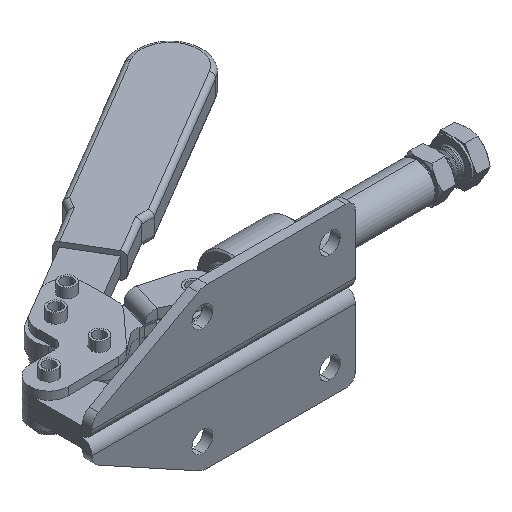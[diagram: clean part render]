
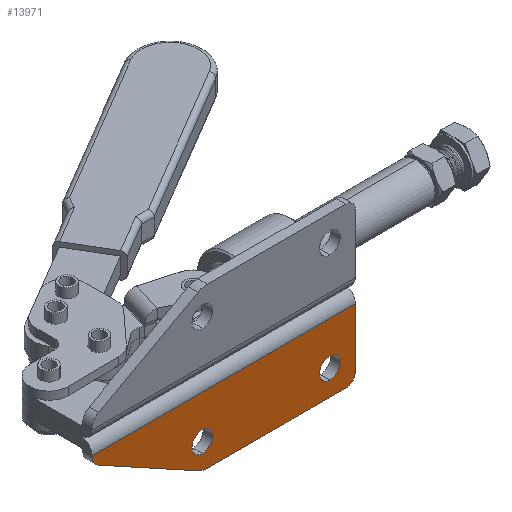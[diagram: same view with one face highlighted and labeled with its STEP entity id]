
A CAD part, isometric view. The second image highlights one B-rep face of the part: STEP entity #13971.
In plain terms, the highlighted planar face has unit normal (0, -1, 0).
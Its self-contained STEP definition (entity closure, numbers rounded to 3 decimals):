
#311 = VECTOR ( 'NONE', #9403, 1000. ) ;
#315 = EDGE_CURVE ( 'NONE', #5913, #9939, #6639, .T. ) ;
#411 = DIRECTION ( 'NONE',  ( 0., 0., -1. ) ) ;
#559 = DIRECTION ( 'NONE',  ( 0., 1., 0. ) ) ;
#711 = DIRECTION ( 'NONE',  ( 0., -1., 0. ) ) ;
#750 = DIRECTION ( 'NONE',  ( 1., 0., 0. ) ) ;
#974 = CARTESIAN_POINT ( 'NONE',  ( 0., 0., -3.5 ) ) ;
#1573 = CIRCLE ( 'NONE', #2748, 3.25 ) ;
#1803 = CIRCLE ( 'NONE', #2439, 3.25 ) ;
#1826 = DIRECTION ( 'NONE',  ( 0., 1., 0. ) ) ;
#1888 = ORIENTED_EDGE ( 'NONE', *, *, #8799, .F. ) ;
#2153 = VECTOR ( 'NONE', #2907, 1000. ) ;
#2169 = CIRCLE ( 'NONE', #7240, 3. ) ;
#2236 = AXIS2_PLACEMENT_3D ( 'NONE', #12518, #5888, #13631 ) ;
#2375 = CARTESIAN_POINT ( 'NONE',  ( -48., 0., -13.75 ) ) ;
#2439 = AXIS2_PLACEMENT_3D ( 'NONE', #10698, #4049, #11818 ) ;
#2579 = ORIENTED_EDGE ( 'NONE', *, *, #12409, .T. ) ;
#2700 = AXIS2_PLACEMENT_3D ( 'NONE', #7338, #711, #8438 ) ;
#2721 = DIRECTION ( 'NONE',  ( 0., -1., 0. ) ) ;
#2748 = AXIS2_PLACEMENT_3D ( 'NONE', #7168, #559, #8294 ) ;
#2907 = DIRECTION ( 'NONE',  ( 0.877, 0., -0.481 ) ) ;
#3090 = FACE_BOUND ( 'NONE', #6454, .T. ) ;
#3225 = VERTEX_POINT ( 'NONE', #2375 ) ;
#3278 = CARTESIAN_POINT ( 'NONE',  ( -82.6, 0., 0. ) ) ;
#3337 = ORIENTED_EDGE ( 'NONE', *, *, #315, .T. ) ;
#3412 = LINE ( 'NONE', #5231, #11937 ) ;
#3661 = AXIS2_PLACEMENT_3D ( 'NONE', #3278, #6638, #411 ) ;
#3961 = VERTEX_POINT ( 'NONE', #6058 ) ;
#3989 = VERTEX_POINT ( 'NONE', #11677 ) ;
#4049 = DIRECTION ( 'NONE',  ( 0., 1., 0. ) ) ;
#4322 = CARTESIAN_POINT ( 'NONE',  ( -8., 0., -20.25 ) ) ;
#4455 = DIRECTION ( 'NONE',  ( 0., -1., 0. ) ) ;
#4538 = CARTESIAN_POINT ( 'NONE',  ( -82.6, 0., 0. ) ) ;
#4602 = ORIENTED_EDGE ( 'NONE', *, *, #13473, .T. ) ;
#5174 = VERTEX_POINT ( 'NONE', #7810 ) ;
#5231 = CARTESIAN_POINT ( 'NONE',  ( -82.6, 0., -25. ) ) ;
#5426 = LINE ( 'NONE', #8417, #2153 ) ;
#5760 = EDGE_LOOP ( 'NONE', ( #8769, #9363 ) ) ;
#5888 = DIRECTION ( 'NONE',  ( 0., 1., 0. ) ) ;
#5913 = VERTEX_POINT ( 'NONE', #8809 ) ;
#5929 = CARTESIAN_POINT ( 'NONE',  ( -46.461, 0., -25. ) ) ;
#6044 = FACE_OUTER_BOUND ( 'NONE', #12788, .T. ) ;
#6058 = CARTESIAN_POINT ( 'NONE',  ( -49.349, 0., -24.259 ) ) ;
#6454 = EDGE_LOOP ( 'NONE', ( #4602, #2579 ) ) ;
#6603 = ORIENTED_EDGE ( 'NONE', *, *, #14054, .T. ) ;
#6638 = DIRECTION ( 'NONE',  ( 0., -1., 0. ) ) ;
#6639 = CIRCLE ( 'NONE', #10902, 4. ) ;
#6733 = VERTEX_POINT ( 'NONE', #10495 ) ;
#6867 = CARTESIAN_POINT ( 'NONE',  ( -3., 0., -25. ) ) ;
#6948 = VERTEX_POINT ( 'NONE', #974 ) ;
#7168 = CARTESIAN_POINT ( 'NONE',  ( -8., 0., -17. ) ) ;
#7190 = AXIS2_PLACEMENT_3D ( 'NONE', #8431, #1826, #9532 ) ;
#7240 = AXIS2_PLACEMENT_3D ( 'NONE', #11105, #4455, #12212 ) ;
#7338 = CARTESIAN_POINT ( 'NONE',  ( -46.461, 0., -19. ) ) ;
#7746 = EDGE_CURVE ( 'NONE', #10836, #6733, #10917, .T. ) ;
#7810 = CARTESIAN_POINT ( 'NONE',  ( 0., 0., -22. ) ) ;
#7879 = DIRECTION ( 'NONE',  ( 0., 0., -1. ) ) ;
#7896 = EDGE_CURVE ( 'NONE', #3961, #13350, #8139, .T. ) ;
#7938 = VECTOR ( 'NONE', #7879, 1000. ) ;
#8139 = CIRCLE ( 'NONE', #2700, 6. ) ;
#8261 = LINE ( 'NONE', #14009, #13807 ) ;
#8294 = DIRECTION ( 'NONE',  ( 0., 0., 1. ) ) ;
#8417 = CARTESIAN_POINT ( 'NONE',  ( -82.6, 0., -6. ) ) ;
#8431 = CARTESIAN_POINT ( 'NONE',  ( -48., 0., -17. ) ) ;
#8438 = DIRECTION ( 'NONE',  ( 0., 0., -1. ) ) ;
#8558 = EDGE_CURVE ( 'NONE', #13350, #10465, #3412, .T. ) ;
#8617 = LINE ( 'NONE', #4538, #7938 ) ;
#8636 = CIRCLE ( 'NONE', #7190, 3.25 ) ;
#8769 = ORIENTED_EDGE ( 'NONE', *, *, #13390, .T. ) ;
#8785 = PLANE ( 'NONE',  #3661 ) ;
#8799 = EDGE_CURVE ( 'NONE', #6948, #5174, #9115, .T. ) ;
#8809 = CARTESIAN_POINT ( 'NONE',  ( -82.6, 0., -3.633 ) ) ;
#8953 = FACE_BOUND ( 'NONE', #5760, .T. ) ;
#9115 = LINE ( 'NONE', #10534, #311 ) ;
#9136 = ORIENTED_EDGE ( 'NONE', *, *, #8558, .T. ) ;
#9229 = ORIENTED_EDGE ( 'NONE', *, *, #11457, .T. ) ;
#9326 = CARTESIAN_POINT ( 'NONE',  ( -78.6, 0., -3.633 ) ) ;
#9363 = ORIENTED_EDGE ( 'NONE', *, *, #7746, .T. ) ;
#9403 = DIRECTION ( 'NONE',  ( 0., 0., -1. ) ) ;
#9468 = EDGE_CURVE ( 'NONE', #3989, #6948, #8261, .T. ) ;
#9532 = DIRECTION ( 'NONE',  ( 0., 0., 1. ) ) ;
#9939 = VERTEX_POINT ( 'NONE', #10146 ) ;
#10146 = CARTESIAN_POINT ( 'NONE',  ( -80.525, 0., -7.139 ) ) ;
#10461 = DIRECTION ( 'NONE',  ( 0., 0., -1. ) ) ;
#10465 = VERTEX_POINT ( 'NONE', #6867 ) ;
#10495 = CARTESIAN_POINT ( 'NONE',  ( -8., 0., -13.75 ) ) ;
#10534 = CARTESIAN_POINT ( 'NONE',  ( 0., 0., 0. ) ) ;
#10698 = CARTESIAN_POINT ( 'NONE',  ( -48., 0., -17. ) ) ;
#10751 = DIRECTION ( 'NONE',  ( 1., 0., 0. ) ) ;
#10836 = VERTEX_POINT ( 'NONE', #4322 ) ;
#10902 = AXIS2_PLACEMENT_3D ( 'NONE', #9326, #2721, #10461 ) ;
#10917 = CIRCLE ( 'NONE', #2236, 3.25 ) ;
#11018 = ORIENTED_EDGE ( 'NONE', *, *, #9468, .F. ) ;
#11105 = CARTESIAN_POINT ( 'NONE',  ( -3., 0., -22. ) ) ;
#11457 = EDGE_CURVE ( 'NONE', #10465, #5174, #2169, .T. ) ;
#11497 = CARTESIAN_POINT ( 'NONE',  ( -48., 0., -20.25 ) ) ;
#11556 = ORIENTED_EDGE ( 'NONE', *, *, #7896, .T. ) ;
#11677 = CARTESIAN_POINT ( 'NONE',  ( -82.6, 0., -3.5 ) ) ;
#11730 = VERTEX_POINT ( 'NONE', #11497 ) ;
#11818 = DIRECTION ( 'NONE',  ( 0., 0., 1. ) ) ;
#11937 = VECTOR ( 'NONE', #10751, 1000. ) ;
#12212 = DIRECTION ( 'NONE',  ( 0., 0., -1. ) ) ;
#12380 = EDGE_CURVE ( 'NONE', #9939, #3961, #5426, .T. ) ;
#12409 = EDGE_CURVE ( 'NONE', #11730, #3225, #1803, .T. ) ;
#12518 = CARTESIAN_POINT ( 'NONE',  ( -8., 0., -17. ) ) ;
#12788 = EDGE_LOOP ( 'NONE', ( #6603, #3337, #13830, #11556, #9136, #9229, #1888, #11018 ) ) ;
#13350 = VERTEX_POINT ( 'NONE', #5929 ) ;
#13390 = EDGE_CURVE ( 'NONE', #6733, #10836, #1573, .T. ) ;
#13473 = EDGE_CURVE ( 'NONE', #3225, #11730, #8636, .T. ) ;
#13631 = DIRECTION ( 'NONE',  ( 0., 0., 1. ) ) ;
#13807 = VECTOR ( 'NONE', #750, 1000. ) ;
#13830 = ORIENTED_EDGE ( 'NONE', *, *, #12380, .T. ) ;
#13971 = ADVANCED_FACE ( 'NONE', ( #3090, #8953, #6044 ), #8785, .T. ) ;
#14009 = CARTESIAN_POINT ( 'NONE',  ( -82.6, 0., -3.5 ) ) ;
#14054 = EDGE_CURVE ( 'NONE', #3989, #5913, #8617, .T. ) ;
